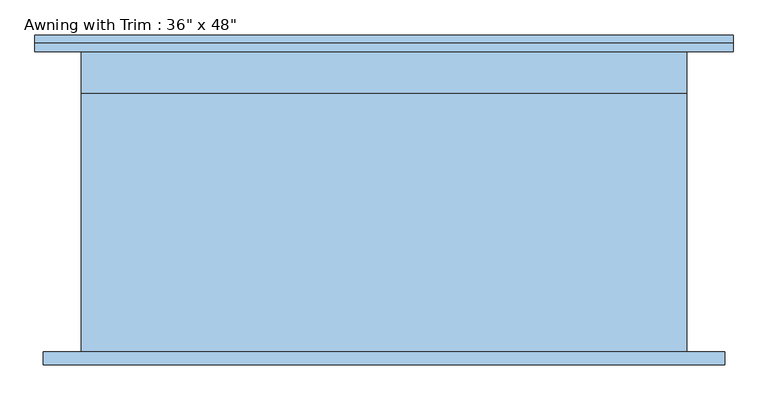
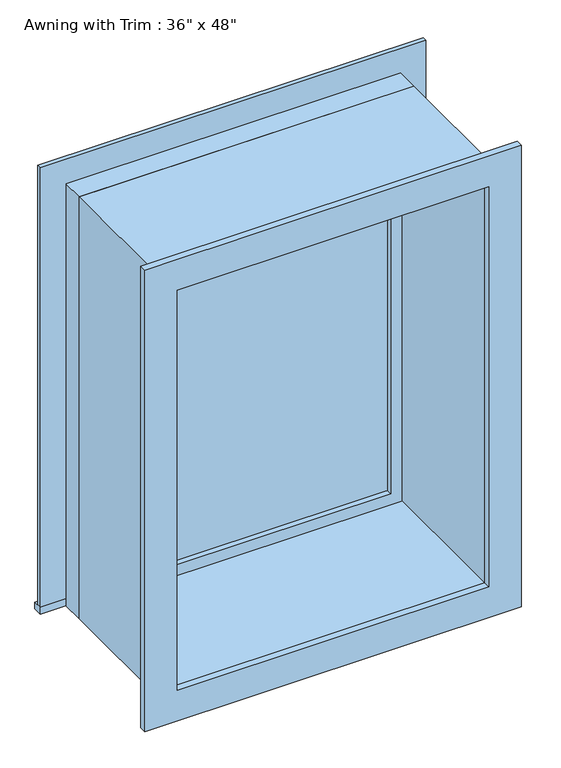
"""IFC4 building model written with IfcOpenShell, lengths in millimetres: window geometry."""

import ifcopenshell
import ifcopenshell.guid

model = None  # the IFC model being written
_history = None  # IfcOwnerHistory: only IFC2X3 demands one
_inside = {}  # id of a spatial element -> (the spatial element, [elements in it])
_under = {}  # id of a project, library or spatial element -> (it, [spatial elements below it])
_declared = {}  # id of a project -> (the project, [libraries it declares])
_typed = {}  # id of a type object -> (the type object, [elements of that type])
_made_of = {}  # id of a material, layer set ... -> (it, [elements and type objects made of it])


def new_model(schema):
    """Start an empty IFC model of exactly this schema.

    Asked for "IFC4X3", IfcOpenShell would pick the latest addendum, in which some entities
    have other attributes; the version numbers below select the first issue.
    IFC2X3 requires an IfcOwnerHistory on every rooted entity: one is made here for all.
    """
    global model, _history
    if schema == "IFC4X3":
        model = ifcopenshell.file(schema_version=(4, 3, 0, 0))
    else:
        model = ifcopenshell.file(schema=schema)
    _inside.clear()
    _under.clear()
    _declared.clear()
    _typed.clear()
    _made_of.clear()
    _history = None
    if model.schema == "IFC2X3":
        org = make("IfcOrganization", Name="unknown")
        user = make(
            "IfcPersonAndOrganization",
            ThePerson=make("IfcPerson", FamilyName="unknown"),
            TheOrganization=org,
        )
        app = make(
            "IfcApplication",
            ApplicationDeveloper=org,
            Version="unknown",
            ApplicationFullName="unknown",
            ApplicationIdentifier="unknown",
        )
        _history = make(
            "IfcOwnerHistory",
            OwningUser=user,
            OwningApplication=app,
            ChangeAction="ADDED",
            CreationDate=0,
        )
    return model


def make(cls, **values):
    """One entity of the class cls with the attributes given. An attribute that is None is left unset."""
    return model.create_entity(
        cls, **{name: value for name, value in values.items() if value is not None}
    )


def rooted(cls, **values):
    """An entity with a GlobalId (a new one), such as an element, a storey or a relation."""
    return make(cls, GlobalId=ifcopenshell.guid.new(), OwnerHistory=_history, **values)


def si_unit(unit_type, name, prefix=None):
    """IfcSIUnit, for example si_unit("LENGTHUNIT", "METRE", prefix="MILLI")."""
    return make("IfcSIUnit", UnitType=unit_type, Prefix=prefix, Name=name)


def assignment(units):
    """IfcUnitAssignment: the units of a project."""
    return None if units is None else make("IfcUnitAssignment", Units=units)


def point(xyz):
    """IfcCartesianPoint."""
    return None if xyz is None else make("IfcCartesianPoint", Coordinates=xyz)


def direction(xyz):
    """IfcDirection."""
    return None if xyz is None else make("IfcDirection", DirectionRatios=xyz)


def frame(location, z_axis=None, x_axis=None):
    """IfcAxis2Placement3D, a coordinate frame: its origin and axes. An axis left out is left unset."""
    return make(
        "IfcAxis2Placement3D",
        Location=point(location),
        Axis=direction(z_axis),
        RefDirection=direction(x_axis),
    )


def origin():
    """The frame at (0, 0, 0) with its axes left unset."""
    return frame((0.0, 0.0, 0.0))


def place(relative_to, where):
    """IfcLocalPlacement: puts the frame where relative to a parent placement (None: the world)."""
    return make(
        "IfcLocalPlacement", PlacementRelTo=relative_to, RelativePlacement=where
    )


def context(
    kind, dimensions, precision=None, world=None, true_north=None, identifier=None
):
    """IfcGeometricRepresentationContext, for example the 3D "Model" context."""
    return make(
        "IfcGeometricRepresentationContext",
        ContextIdentifier=identifier,
        ContextType=kind,
        CoordinateSpaceDimension=dimensions,
        Precision=precision,
        WorldCoordinateSystem=world,
        TrueNorth=true_north,
    )


def project(units=None, contexts=None):
    """IfcProject with its units and contexts."""
    return rooted(
        "IfcProject",
        Name="project",
        RepresentationContexts=contexts,
        UnitsInContext=assignment(units),
    )


def spatial(cls, under=None, at=None, **own):
    """A site, building, storey or space (cls), placed at a placement, below another one or the project."""
    s = rooted(cls, ObjectPlacement=at, **own)
    if under is not None:
        _under.setdefault(under.id(), (under, []))[1].append(s)
    return s


def polyline(points):
    """IfcPolyline through the points."""
    return make("IfcPolyline", Points=[point(p) for p in points])


def outline(outer, holes=None, kind="AREA"):
    """IfcArbitraryClosedProfileDef: a profile drawn as a closed curve; with holes, ...WithVoids."""
    if holes is None:
        return make("IfcArbitraryClosedProfileDef", ProfileType=kind, OuterCurve=outer)
    return make(
        "IfcArbitraryProfileDefWithVoids",
        ProfileType=kind,
        OuterCurve=outer,
        InnerCurves=holes,
    )


def extrude(swept, where, along, depth):
    """IfcExtrudedAreaSolid: the profile swept, set in the frame where, extruded along a direction by depth."""
    return make(
        "IfcExtrudedAreaSolid",
        SweptArea=swept,
        Position=where,
        ExtrudedDirection=direction(along),
        Depth=depth,
    )


def shape(context_of_items, identifier, shape_type, items):
    """IfcShapeRepresentation: the items that make up one representation, for example the "Body"."""
    return make(
        "IfcShapeRepresentation",
        ContextOfItems=context_of_items,
        RepresentationIdentifier=identifier,
        RepresentationType=shape_type,
        Items=items,
    )


def source(mapping_origin, context_of_items, identifier, shape_type, items):
    """IfcRepresentationMap: a shape defined once, which mapped items show again and again."""
    return make(
        "IfcRepresentationMap",
        MappingOrigin=mapping_origin,
        MappedRepresentation=shape(context_of_items, identifier, shape_type, items),
    )


def transform(
    local_origin,
    x_axis=None,
    y_axis=None,
    z_axis=None,
    scale=None,
    scale2=None,
    scale3=None,
    uniform=True,
):
    """IfcCartesianTransformationOperator3D, or its non-uniform kind. x_axis, y_axis, z_axis: its Axis1, 2, 3."""
    if uniform:
        return make(
            "IfcCartesianTransformationOperator3D",
            Axis1=direction(x_axis),
            Axis2=direction(y_axis),
            LocalOrigin=point(local_origin),
            Scale=scale,
            Axis3=direction(z_axis),
        )
    return make(
        "IfcCartesianTransformationOperator3DnonUniform",
        Axis1=direction(x_axis),
        Axis2=direction(y_axis),
        LocalOrigin=point(local_origin),
        Scale=scale,
        Axis3=direction(z_axis),
        Scale2=scale2,
        Scale3=scale3,
    )


def mapped(mapping_source, mapping_target):
    """IfcMappedItem: shows the shape of a source again, moved by a transform."""
    return make(
        "IfcMappedItem", MappingSource=mapping_source, MappingTarget=mapping_target
    )


def made_of(thing, what):
    """Note that an element or type object is made of a material, layer set ...; save() writes the relation."""
    if what is not None:
        _made_of.setdefault(what.id(), (what, []))[1].append(thing)
    return thing


def element(
    cls,
    number,
    at=None,
    inside=None,
    cuts=None,
    type_object=None,
    material=None,
    context=None,
    identifier="Body",
    shape_type=None,
    held_by="IfcProductDefinitionShape",
    body=None,
    shapes=None,
    **own,
):
    """One element of the class cls, such as IfcWall. Its Tag is "e" and its number.

    at: its placement. inside: the storey or other place that contains it. cuts: it is an
    opening in that element (IfcRelVoidsElement). A single representation is given by context,
    identifier, shape_type and body (its items); several are given by shapes. held_by: the class
    of the entity that holds the representations. save() writes the other relations.
    """
    e = rooted(cls, Tag="e%d" % number, ObjectPlacement=at, **own)
    if body is not None:
        shapes = [shape(context, identifier, shape_type, body)]
    if shapes is not None:
        e.Representation = make(held_by, Representations=shapes)
    if inside is not None:
        _inside.setdefault(inside.id(), (inside, []))[1].append(e)
    if cuts is not None:
        rooted(
            "IfcRelVoidsElement", RelatingBuildingElement=cuts, RelatedOpeningElement=e
        )
    if type_object is not None:
        _typed.setdefault(type_object.id(), (type_object, []))[1].append(e)
    return made_of(e, material)


def aggregate(whole, parts):
    """IfcRelAggregates: a whole, such as a stair, and the parts it consists of."""
    return rooted("IfcRelAggregates", RelatingObject=whole, RelatedObjects=parts)


def save(model, path):
    """Write the relations noted so far, then the file.

    IfcRelAggregates (storeys below a building ...), IfcRelContainedInSpatialStructure (elements
    in a storey), IfcRelDefinesByType, IfcRelAssociatesMaterial and IfcRelDeclares: one each for
    every whole, place, type object, material and project.
    """
    for whole, parts in _under.values():
        aggregate(whole, parts)
    for where, things in _inside.values():
        rooted(
            "IfcRelContainedInSpatialStructure",
            RelatedElements=things,
            RelatingStructure=where,
        )
    for kind, things in _typed.values():
        rooted("IfcRelDefinesByType", RelatedObjects=things, RelatingType=kind)
    for what, things in _made_of.values():
        rooted("IfcRelAssociatesMaterial", RelatedObjects=things, RelatingMaterial=what)
    for by, libraries in _declared.values():
        rooted("IfcRelDeclares", RelatingContext=by, RelatedDefinitions=libraries)
    model.write(path)


def window_8f1c9775(model_context):
    return source(origin(), model_context, "Body", "SweptSolid", [
        extrude(outline(polyline([(-527.05, 252.4125), (527.05, 252.4125), (527.05, 227.0125), (-527.05, 227.0125), (-527.05, 252.4125)])), frame((0.0, 0.0, 914.4), z_axis=(0.0, 0.0, 1.0), x_axis=(1.0, 0.0, 0.0)), (0.0, 0.0, 1.0), 19.05),
        extrude(outline(polyline([(2114.55, -438.15), (2114.55, 438.15), (933.45, 438.15), (933.45, 527.05), (2203.45, 527.05), (2203.45, -527.05), (933.45, -527.05), (933.45, -438.15), (2114.55, -438.15)])), frame((0.0, 227.0125, 0.0), z_axis=(0.0, 1.0, 0.0), x_axis=(0.0, 0.0, 1.0)), (0.0, 0.0, 1.0), 12.7),
        extrude(outline(polyline([(2190.75, 514.35), (2190.75, -514.35), (857.25, -514.35), (857.25, 514.35), (2190.75, 514.35)]), holes=[polyline([(2101.85, 425.45), (946.15, 425.45), (946.15, -425.45), (2101.85, -425.45), (2101.85, 425.45)])]), frame((0.0, -246.0625, 0.0), z_axis=(0.0, 1.0, 0.0), x_axis=(0.0, 0.0, 1.0)), (0.0, 0.0, 1.0), 19.05),
        extrude(outline(polyline([(393.7, 179.3875), (-393.7, 179.3875), (-393.7, 192.0875), (393.7, 192.0875), (393.7, 179.3875)])), frame((0.0, 0.0, 977.9), z_axis=(0.0, 0.0, 1.0), x_axis=(1.0, 0.0, 0.0)), (0.0, 0.0, 1.0), 1092.2),
        extrude(outline(polyline([(2114.55, -438.15), (933.45, -438.15), (933.45, 438.15), (2114.55, 438.15), (2114.55, -438.15)]), holes=[polyline([(2070.1, -393.7), (2070.1, 393.7), (977.9, 393.7), (977.9, -393.7), (2070.1, -393.7)])]), frame((0.0, 163.5125, 0.0), z_axis=(0.0, 1.0, 0.0), x_axis=(0.0, 0.0, 1.0)), (0.0, 0.0, 1.0), 44.45),
        extrude(outline(polyline([(2133.6, -457.2), (914.4, -457.2), (914.4, 457.2), (2133.6, 457.2), (2133.6, -457.2)]), holes=[polyline([(2101.85, -425.45), (2101.85, 425.45), (946.15, 425.45), (946.15, -425.45), (2101.85, -425.45)])]), frame((0.0, -227.0125, 0.0), z_axis=(0.0, 1.0, 0.0), x_axis=(0.0, 0.0, 1.0)), (0.0, 0.0, 1.0), 390.525),
        extrude(outline(polyline([(2133.6, 457.2), (2133.6, -457.2), (914.4, -457.2), (914.4, 457.2), (2133.6, 457.2)]), holes=[polyline([(2114.55, 438.15), (933.45, 438.15), (933.45, -438.15), (2114.55, -438.15), (2114.55, 438.15)])]), frame((0.0, 163.5125, 0.0), z_axis=(0.0, 1.0, 0.0), x_axis=(0.0, 0.0, 1.0)), (0.0, 0.0, 1.0), 63.5),
    ])


if __name__ == "__main__":
    model = new_model("IFC4")
    model_context = context("Model", 3, world=origin())
    ifc_project = project(units=[si_unit("LENGTHUNIT", "METRE", prefix="MILLI")], contexts=[model_context])
    site = spatial("IfcSite", under=ifc_project)
    building = spatial("IfcBuilding", under=site)
    placement = place(None, origin())
    window_shape = window_8f1c9775(model_context)
    element("IfcWindow", 1, ObjectType="Awning with Trim : 36\" x 48\"", at=placement, inside=building, context=model_context, shape_type="MappedRepresentation", body=[
        mapped(window_shape, transform((0.0, 0.0, 0.0), x_axis=(1.0, 0.0, 0.0), y_axis=(0.0, 1.0, 0.0), z_axis=(0.0, 0.0, 1.0))),
    ])
    save(model, "model.ifc")
